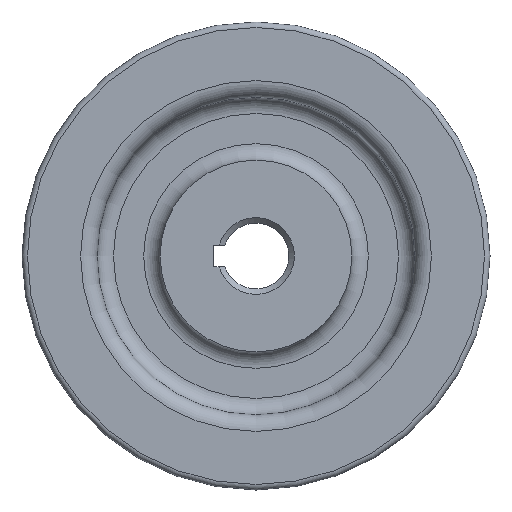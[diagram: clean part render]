
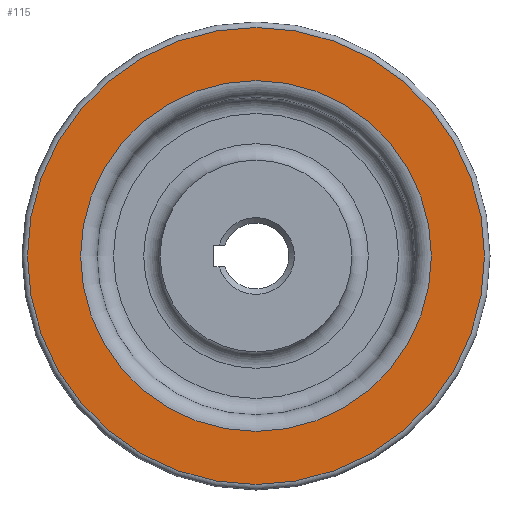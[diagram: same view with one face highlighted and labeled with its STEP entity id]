
A CAD part, left-side view. The second image highlights one B-rep face of the part: STEP entity #115.
In plain terms, the highlighted planar face has unit normal (-1, 0, 0).
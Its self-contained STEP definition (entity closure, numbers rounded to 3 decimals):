
#84=CARTESIAN_POINT('',(0.,0.,-32.));
#85=VERTEX_POINT('',#84);
#86=CARTESIAN_POINT('',(0.,0.,0.0));
#87=DIRECTION('',(-1.0,0.0,0.0));
#88=DIRECTION('',(0.0,0.0,1.0));
#89=AXIS2_PLACEMENT_3D('',#86,#87,#88);
#90=CIRCLE('',#89,32.);
#91=EDGE_CURVE('',#85,#85,#90,.T.);
#96=CARTESIAN_POINT('',(0.,41.151,0.0));
#97=DIRECTION('',(-1.0,0.0,0.0));
#98=DIRECTION('',(0.0,0.0,1.0));
#99=AXIS2_PLACEMENT_3D('',#96,#97,#98);
#100=PLANE('',#99);
#101=CARTESIAN_POINT('',(0.,41.7,0.0));
#102=VERTEX_POINT('',#101);
#103=CARTESIAN_POINT('',(0.,0.,0.0));
#104=DIRECTION('',(1.0,0.0,0.0));
#105=DIRECTION('',(0.0,-1.0,0.0));
#106=AXIS2_PLACEMENT_3D('',#103,#104,#105);
#107=CIRCLE('',#106,41.7);
#108=EDGE_CURVE('',#102,#102,#107,.T.);
#109=ORIENTED_EDGE('',*,*,#108,.F.);
#110=EDGE_LOOP('',(#109));
#111=FACE_OUTER_BOUND('',#110,.T.);
#112=ORIENTED_EDGE('',*,*,#91,.F.);
#113=EDGE_LOOP('',(#112));
#114=FACE_BOUND('',#113,.T.);
#115=ADVANCED_FACE('',(#111,#114),#100,.T.);
